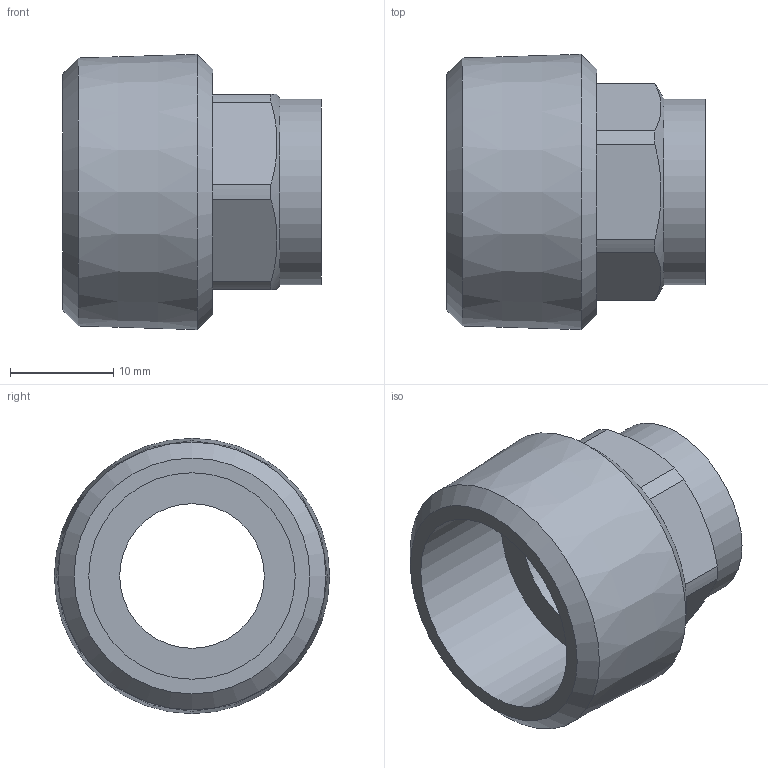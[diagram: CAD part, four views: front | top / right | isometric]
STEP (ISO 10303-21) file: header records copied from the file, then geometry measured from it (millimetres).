
FILE_DESCRIPTION((''),'2;1');
FILE_NAME('\\Lg50001\Groups\SANHA Legnica\Engineering\Public\RYSUNKI\SANHA POLSKA\4243G\step\14243_15-34(2).stp','2008-08-20T13:04:14',('pajchrowski'),(''),'Autodesk Inventor 2008','Autodesk Inventor 2008','');
FILE_SCHEMA(('AUTOMOTIVE_DESIGN { 1 0 10303 214 1 1 1 1 }'));
Length unit declared in the file: millimetre
Products named in the file (1): 14243_15-34(2)
Bounding box: 25 x 26.66 x 26.66 mm (x, y, z)
Volume: 4817.1 mm3; surface area: 3788.8 mm2
Topology: 1 solids, 1 shells, 25 faces, 57 edges, 37 vertices
Faces by surface type: plane 11, cylinder 10, cone 4
Full cylindrical faces by diameter (mm): 14 x1, 15.11 x1, 18 x1, 20 x1
Entity records: 686 total; most frequent: CARTESIAN_POINT 122, DIRECTION 118, ORIENTED_EDGE 96, AXIS2_PLACEMENT_3D 50, EDGE_CURVE 48, EDGE_LOOP 38, VERTEX_POINT 36, FACE_OUTER_BOUND 25
